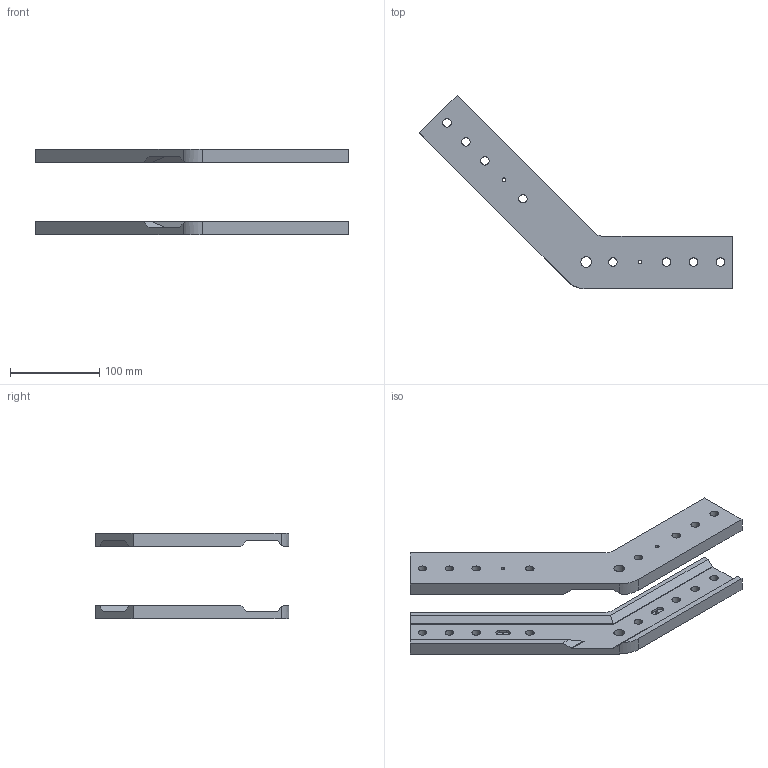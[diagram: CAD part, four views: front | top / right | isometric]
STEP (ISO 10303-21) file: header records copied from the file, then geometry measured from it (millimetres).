
FILE_DESCRIPTION(('STEP AP214'),'1');
FILE_NAME('EGT237_1700842_L-VERB_VARIABEL_SW80.CATPart.stp','2015-09-14T13:15:02',('3D-Tool'),(' '),'Spatial InterOp 3D',' ',' ');
FILE_SCHEMA(('automotive_design'));
Length unit declared in the file: millimetre
Products named in the file (2): EGT237_1700842_L-VERB_VARIABEL_SW80|EGT237_L-VERB_VARIABEL_SW80|Bohrbearbeitung; EGT237_1700842_L-VERB_VARIABEL_SW80|EGT237_L-Verbindung_Variabel_SW80_SW80|Symmetry.1
Bounding box: 350.68 x 216.68 x 96 mm (x, y, z)
Volume: 467503.5 mm3; surface area: 127068.1 mm2
Topology: 2 solids, 2 shells, 162 faces, 458 edges, 304 vertices
Faces by surface type: cylinder 118, plane 44
Entity records: 6838 total; most frequent: DIRECTION 1000, CARTESIAN_POINT 998, ORIENTED_EDGE 916, EDGE_CURVE 458, AXIS2_PLACEMENT_3D 388, VERTEX_POINT 304, LINE 224, CIRCLE 224
